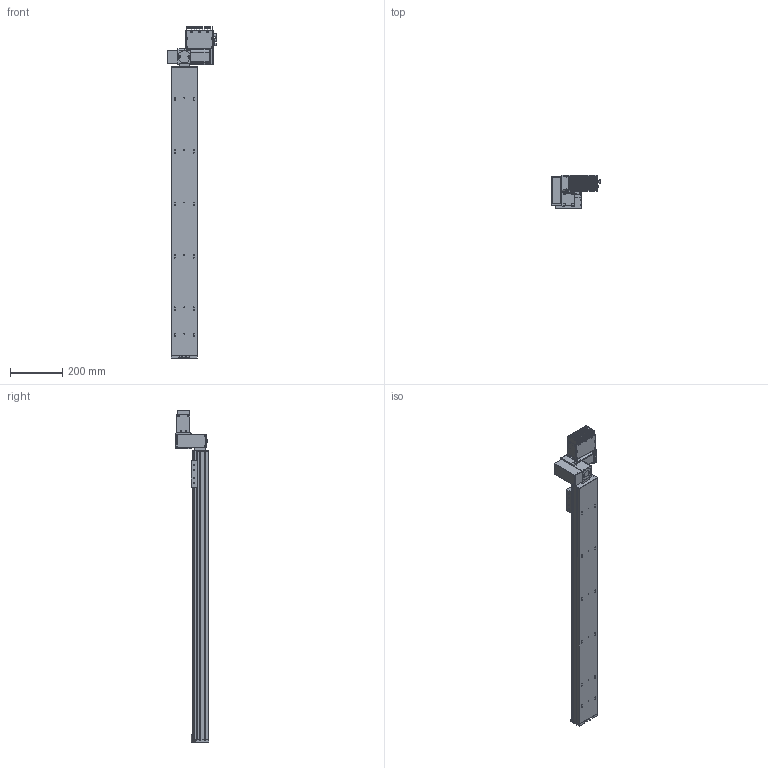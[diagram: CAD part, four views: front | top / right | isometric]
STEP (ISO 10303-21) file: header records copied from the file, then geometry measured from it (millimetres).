
FILE_DESCRIPTION (( 'STEP AP203' ), '1' );
FILE_NAME ('S10 TBN LT S1100.STEP', '2012-06-19T12:54:30', ( 'Conseil Régional Haute-Normandie' ), ( 'Conseil Régional Haute-Normandie' ), 'SwSTEP 2.0', 'SolidWorks 2010', '' );
FILE_SCHEMA (( 'CONFIG_CONTROL_DESIGN' ));
Length unit declared in the file: millimetre
Products named in the file (26): palette tbn; renvoi LH_Default; Plaque racord_Default; BU45 Carte d''axe A11_5; Moteur 60BLDC90A_3; Couvercle_3; Radiateur profil_X2_00E9_X0_ 100x25_3; Colonnette ronde_3; S10 TBN LT S1100; axe 1100; embout; cache t皻e_Default; Copie de plaque de bout s10_Default^S10 TBN LT S1100; vis M5 L5_Default; cache t皻e axe_Default; Assem1_7; T_X2_00F4_X0_le contre le moteur_5; BU41 Carte Alimentation P05_3; Colonnette_3; T_X2_00F4_X0_le fond_3; Connecteur rond D10 3cts_5; Connecteur rond D12 4cts_5; Sub D 9cts 90_X2_00B_X0__3; T_X2_00F4_X0_le Arri_X2_00E8_X0_re_5; T_X2_00F4_X0_le lat_X2_00E9_X0_rale_5; Vis TF 3 torkx_1_1
Assembly tree (52 placements, depth 3):
  S10 TBN LT S1100
    vis M5 L5_Default  x4
    Plaque racord_Default
    cache t皻e_Default  x2
    axe 1100
    renvoi LH_Default
    palette tbn
    cache t皻e axe_Default
    Assem1_7
      BU41 Carte Alimentation P05_3
      Vis TF 3 torkx_1_1  x21
      Colonnette_3  x2
      Connecteur rond D10 3cts_5  x2
      Connecteur rond D12 4cts_5
      Colonnette ronde_3
      T_X2_00F4_X0_le contre le moteur_5
      T_X2_00F4_X0_le Arri_X2_00E8_X0_re_5
      T_X2_00F4_X0_le fond_3
      Moteur 60BLDC90A_3
      Sub D 9cts 90_X2_00B_X0__3
      Radiateur profil_X2_00E9_X0_ 100x25_3
      T_X2_00F4_X0_le lat_X2_00E9_X0_rale_5  x2
      BU45 Carte d''axe A11_5
      Couvercle_3
    embout
    Copie de plaque de bout s10_Default^S10 TBN LT S1100
Bounding box: 186.1 x 127 x 1266.5 mm (x, y, z)
Volume: 6589837.2 mm3; surface area: 852518.5 mm2
Topology: 51 solids, 51 shells, 2055 faces, 5194 edges, 3367 vertices
Faces by surface type: plane 936, cylinder 934, cone 162, bspline 20, torus 3
Entity records: 45048 total; most frequent: CARTESIAN_POINT 8156, DIRECTION 7321, ORIENTED_EDGE 6668, EDGE_CURVE 3334, AXIS2_PLACEMENT_3D 2721, VERTEX_POINT 2181, VECTOR 1879, LINE 1879
